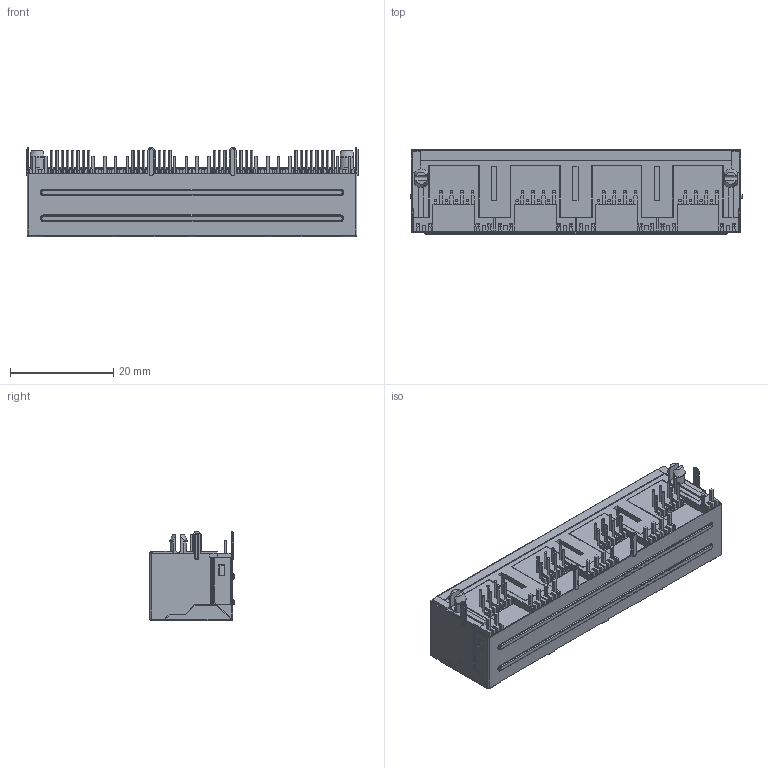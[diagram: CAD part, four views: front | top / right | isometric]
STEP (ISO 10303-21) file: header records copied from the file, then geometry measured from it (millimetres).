
FILE_DESCRIPTION((''),'2;1');
FILE_NAME('ASM0001_ASM_1_ASM','2020-05-19T16:52:44',('Administrator'),(''),'CREO PARAMETRIC BY PTC INC, 2018400','CREO PARAMETRIC BY PTC INC, 2018400','');
FILE_SCHEMA(('CONFIG_CONTROL_DESIGN'));
Length unit declared in the file: millimetre
Products named in the file (9): T_1; SU_1; LED_1; LED2_1; CT_1; Y_1; Y2_1; Y_ASM_1_ASM; ASM0001_ASM_1_ASM
Assembly tree (26 placements, depth 3):
  ASM0001_ASM_1_ASM
    T_1
    SU_1
    LED_1  x4
    LED2_1  x4
    CT_1  x4
    Y_ASM_1_ASM  x4
      Y_1
      Y2_1
Bounding box: 64.2 x 16.25 x 17.25 mm (x, y, z)
Volume: 6954.7 mm3; surface area: 18963.6 mm2
Topology: 46 solids, 46 shells, 2836 faces, 7803 edges, 4976 vertices
Faces by surface type: plane 2063, cylinder 599, torus 144, bspline 24, cone 4, sphere 2
Entity records: 56981 total; most frequent: CARTESIAN_POINT 11459, ORIENTED_EDGE 9818, DIRECTION 8981, EDGE_CURVE 4909, VECTOR 4091, LINE 4091, VERTEX_POINT 3146, AXIS2_PLACEMENT_3D 2445
